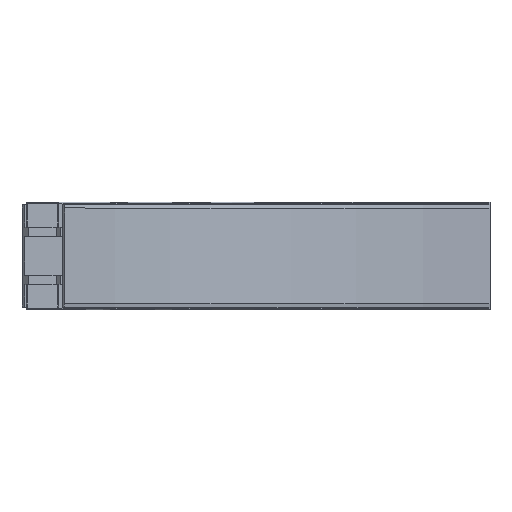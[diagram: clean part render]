
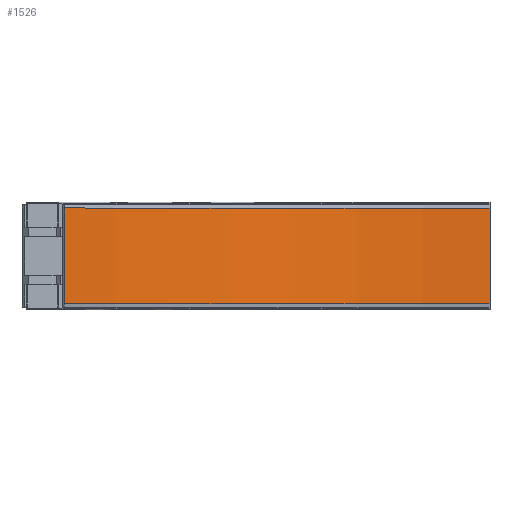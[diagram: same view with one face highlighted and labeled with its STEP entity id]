
A CAD part, top view. The second image highlights one B-rep face of the part: STEP entity #1526.
In plain terms, the highlighted cylindrical face has radius 817.5 mm (diameter 1635 mm), a partial arc.
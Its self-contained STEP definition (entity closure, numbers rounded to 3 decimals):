
#80=CYLINDRICAL_SURFACE('',#1643,817.5);
#149=FACE_OUTER_BOUND('',#236,.T.);
#236=EDGE_LOOP('',(#1052,#1053,#1054,#1055));
#323=CIRCLE('',#1633,817.5);
#328=CIRCLE('',#1642,817.5);
#400=LINE('',#2215,#526);
#401=LINE('',#2216,#527);
#526=VECTOR('',#1808,10.);
#527=VECTOR('',#1809,10.);
#643=VERTEX_POINT('',#2183);
#644=VERTEX_POINT('',#2185);
#652=VERTEX_POINT('',#2209);
#653=VERTEX_POINT('',#2211);
#799=EDGE_CURVE('',#643,#644,#323,.T.);
#813=EDGE_CURVE('',#652,#653,#328,.T.);
#814=EDGE_CURVE('',#643,#652,#400,.T.);
#815=EDGE_CURVE('',#644,#653,#401,.T.);
#1052=ORIENTED_EDGE('',*,*,#814,.T.);
#1053=ORIENTED_EDGE('',*,*,#813,.T.);
#1054=ORIENTED_EDGE('',*,*,#815,.F.);
#1055=ORIENTED_EDGE('',*,*,#799,.F.);
#1526=ADVANCED_FACE('',(#149),#80,.F.);
#1633=AXIS2_PLACEMENT_3D('',#2186,#1777,#1778);
#1642=AXIS2_PLACEMENT_3D('',#2213,#1804,#1805);
#1643=AXIS2_PLACEMENT_3D('',#2214,#1806,#1807);
#1777=DIRECTION('center_axis',(0.,1.,0.));
#1778=DIRECTION('ref_axis',(0.,0.,-1.));
#1804=DIRECTION('center_axis',(0.,1.,0.));
#1805=DIRECTION('ref_axis',(0.,0.,-1.));
#1806=DIRECTION('center_axis',(0.,1.,0.));
#1807=DIRECTION('ref_axis',(0.,0.,-1.));
#1808=DIRECTION('',(0.,1.,0.));
#1809=DIRECTION('',(0.,1.,0.));
#2183=CARTESIAN_POINT('',(0.,-65.,42.5));
#2185=CARTESIAN_POINT('',(-578.06,-65.,281.94));
#2186=CARTESIAN_POINT('Origin',(0.,-65.,860.));
#2209=CARTESIAN_POINT('',(0.,65.,42.5));
#2211=CARTESIAN_POINT('',(-578.06,65.,281.94));
#2213=CARTESIAN_POINT('Origin',(0.,65.,860.));
#2214=CARTESIAN_POINT('Origin',(0.,0.,860.));
#2215=CARTESIAN_POINT('',(0.,-65.,42.5));
#2216=CARTESIAN_POINT('',(-578.06,-65.,281.94));
